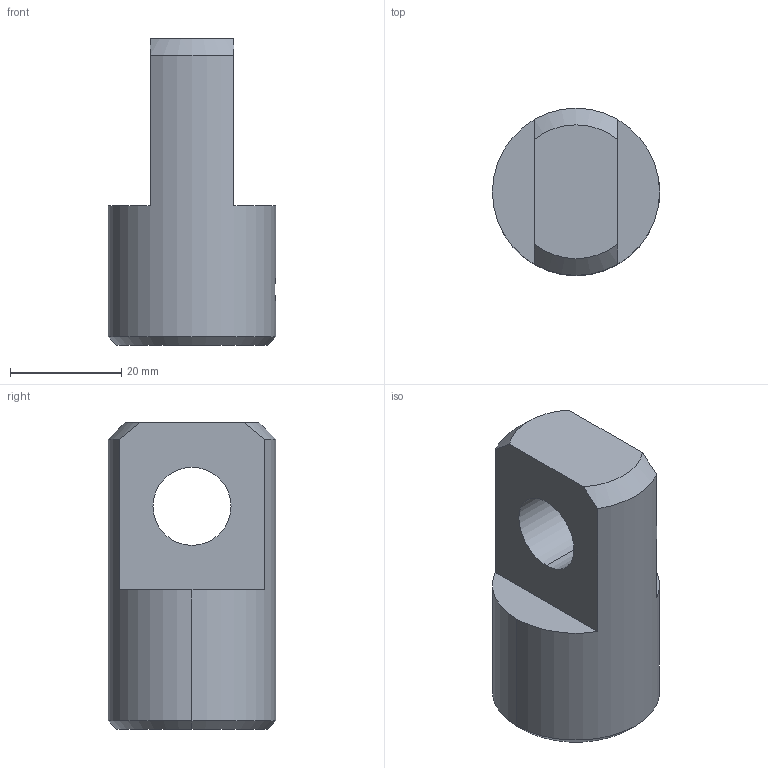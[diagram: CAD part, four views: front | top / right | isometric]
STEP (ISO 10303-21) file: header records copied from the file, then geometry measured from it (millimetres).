
FILE_DESCRIPTION (( 'STEP AP203' ), '1' );
FILE_NAME ('MJ1-VS.STEP', '2024-01-15T14:41:36', ( '' ), ( '' ), 'SwSTEP 2.0', 'SolidWorks 2022', '' );
FILE_SCHEMA (( 'CONFIG_CONTROL_DESIGN' ));
Length unit declared in the file: millimetre
Products named in the file (1): MJ1-VS
Bounding box: 30 x 30 x 55 mm (x, y, z)
Volume: 25650.1 mm3; surface area: 7435.8 mm2
Topology: 1 solids, 1 shells, 20 faces, 56 edges, 35 vertices
Faces by surface type: cylinder 8, cone 6, plane 6
Entity records: 837 total; most frequent: CARTESIAN_POINT 256, ORIENTED_EDGE 108, DIRECTION 104, EDGE_CURVE 54, AXIS2_PLACEMENT_3D 41, VERTEX_POINT 35, EDGE_LOOP 23, LINE 22
